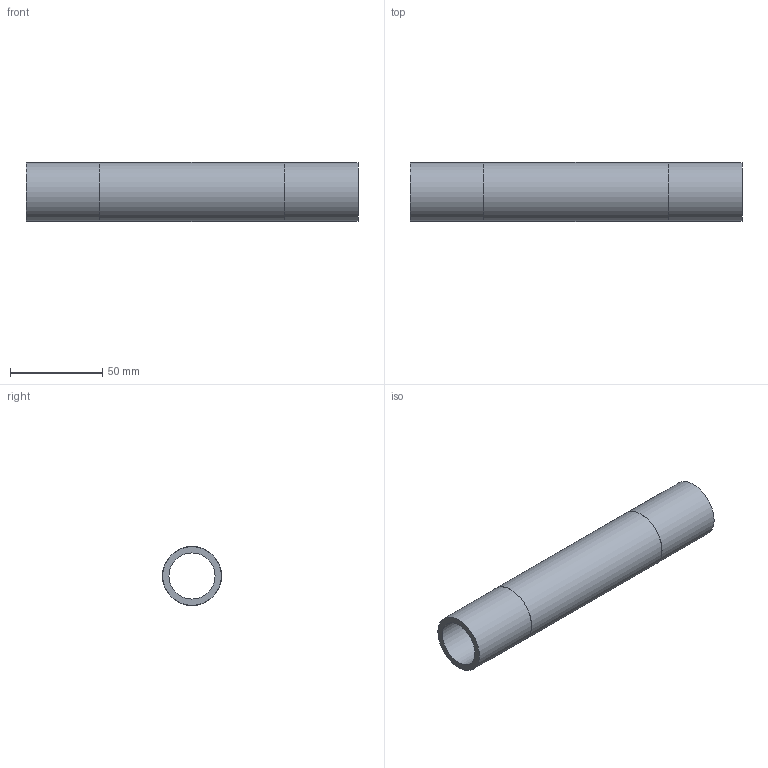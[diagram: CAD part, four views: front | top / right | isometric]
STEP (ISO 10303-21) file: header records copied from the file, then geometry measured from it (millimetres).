
FILE_DESCRIPTION(/* description */ ('ＶＰ'),/* implementation_level */ '2;1');
FILE_NAME(/* name */ 'C:\Users\Fujimoto-s\OneDrive\Inventor\WorkSpace\\X2\305D306E4ED6\X0\\ホームページ用\\X2\30C030A630F330ED30FC30C97D206750\X0\\塩ビ配管\TS-25\TS-25.stp',/* time_stamp */ '2024-08-10T13:23:52+09:00',/* author */ ('Fujimoto-s'),/* organization */ (''),/* preprocessor_version */ 'ST-DEVELOPER v15.2',/* originating_system */ 'Autodesk Inventor 2014',/* authorisation */ '');
FILE_SCHEMA (('AUTOMOTIVE_DESIGN { 1 0 10303 214 3 1 1 }'));
Length unit declared in the file: millimetre
Products named in the file (1): TS-25
Bounding box: 180 x 32 x 32 mm (x, y, z)
Volume: 55605.6 mm3; surface area: 32809.2 mm2
Topology: 1 solids, 1 shells, 8 faces, 12 edges, 8 vertices
Faces by surface type: cylinder 4, plane 4
Full cylindrical faces by diameter (mm): 25 x1, 31.8 x2, 32 x1
Entity records: 192 total; most frequent: DIRECTION 34, CARTESIAN_POINT 25, AXIS2_PLACEMENT_3D 17, EDGE_LOOP 16, ORIENTED_EDGE 16, FACE_BOUND 12, CIRCLE 8, VERTEX_POINT 8
